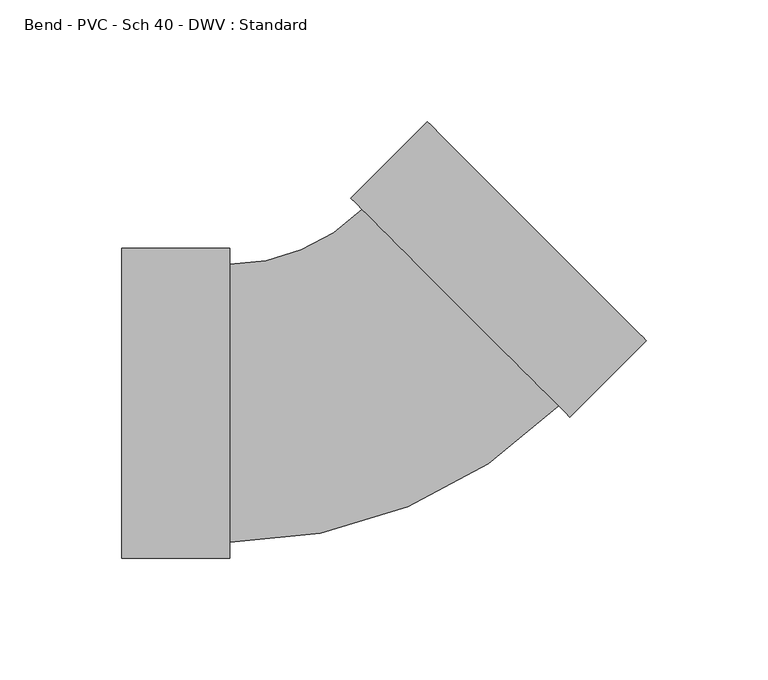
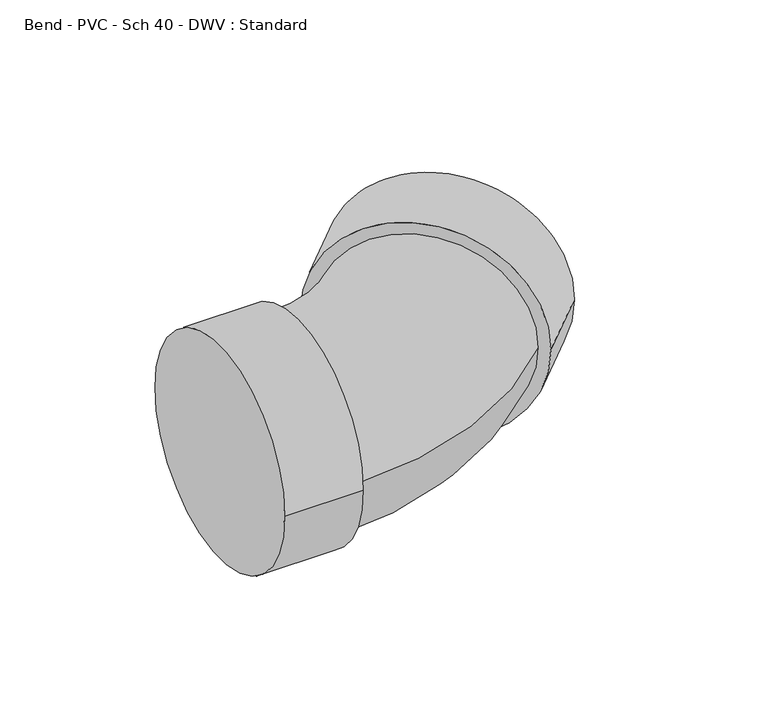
"""IFC4 building model written with IfcOpenShell, lengths in millimetres: pipe fitting geometry, Bend - PVC - Sch 40 - DWV : Standard."""

from ifc_helpers import new_model, si_unit, point, frame, origin, place, context, project, spatial, circle_curve, ellipse_curve, trimmed, source, transform, mapped, element, save
from ifc_brep_helpers import plane_surface, cylinder_surface, revolved_surface, advanced_brep


def bend_pvc_sch_40_dwv_standard_b61a2a1c(model_context):
    return source(origin(), model_context, "Body", "AdvancedBrep", [
        advanced_brep(
        [(-100.0252, -63.754, 0.0), (-100.0252, 63.754, 0.0), (-55.5752, -63.754, 0.0), (-55.5752, 63.754, 0.0), (-55.5752, -57.15, 0.0), (-55.5752, 57.15, 0.0), (-1.1095412, 79.7088093, 0.0), (79.7086972, -1.1175623, 0.0), (84.3781954, -5.7875305, 0.0), (-5.7790394, 84.3787774, 0.0), (115.8106733, 25.6417845, 0.0), (25.6534384, 115.8080923, 0.0)],
        [
            (0, 1, circle_curve(frame((-100.0252, 0.0, 0.0), z_axis=(-1.0, 0.0, 0.0), x_axis=(0.0, 1.0, 0.0)), 63.754)),
            (1, 0, circle_curve(frame((-100.0252, 0.0, 0.0), z_axis=(-1.0, 0.0, 0.0), x_axis=(0.0, 1.0, 0.0)), 63.754)),
            (2, 3, circle_curve(frame((-55.5752, 0.0, 0.0), z_axis=(1.0, 0.0, 0.0), x_axis=(0.0, 1.0, 0.0)), 63.754)),
            (3, 2, circle_curve(frame((-55.5752, 0.0, 0.0), z_axis=(1.0, 0.0, 0.0), x_axis=(0.0, 1.0, 0.0)), 63.754)),
            (4, 5, circle_curve(frame((-55.5752, 0.0, 0.0), z_axis=(-1.0, 0.0, 0.0), x_axis=(0.0, 1.0, 0.0)), 57.15)),
            (5, 4, circle_curve(frame((-55.5752, 0.0, 0.0), z_axis=(-1.0, 0.0, 0.0), x_axis=(0.0, 1.0, 0.0)), 57.15)),
            (0, 2),
            (3, 1),
            (6, 5, circle_curve(frame((-55.5752, 134.1799493, 0.0), z_axis=(0.0, 0.0, -1.0), x_axis=(0.0, -1.0, 0.0)), 77.0299493)),
            (4, 7, circle_curve(frame((-55.5752, 134.1799493, 0.0), z_axis=(0.0, 0.0, 1.0), x_axis=(0.0, -1.0, 0.0)), 191.3299493)),
            (7, 6, circle_curve(frame((39.299578, 39.2956235, 0.0), z_axis=(-0.7071423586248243, -0.707071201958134, 0.0), x_axis=(-0.707071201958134, 0.7071423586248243, 0.0)), 57.15)),
            (6, 7, circle_curve(frame((39.299578, 39.2956235, 0.0), z_axis=(-0.7071423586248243, -0.707071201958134, 0.0), x_axis=(-0.707071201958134, 0.7071423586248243, 0.0)), 57.15)),
            (8, 9, circle_curve(frame((39.299578, 39.2956235, 0.0), z_axis=(-0.7071423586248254, -0.7070712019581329, 0.0), x_axis=(-0.7070712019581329, 0.7071423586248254, 0.0)), 63.754)),
            (9, 8, circle_curve(frame((39.299578, 39.2956235, 0.0), z_axis=(-0.7071423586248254, -0.7070712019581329, 0.0), x_axis=(-0.7070712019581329, 0.7071423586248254, 0.0)), 63.754)),
            (10, 11, circle_curve(frame((70.7320558, 70.7249384, 0.0), z_axis=(0.7071423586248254, 0.7070712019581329, 0.0), x_axis=(-0.7070712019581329, 0.7071423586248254, 0.0)), 63.754)),
            (11, 10, circle_curve(frame((70.7320558, 70.7249384, 0.0), z_axis=(0.7071423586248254, 0.7070712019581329, 0.0), x_axis=(-0.7070712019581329, 0.7071423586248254, 0.0)), 63.754)),
            (8, 10),
            (11, 9),
        ],
        [
            plane_surface(frame((-100.0252, 0.0, 0.0), z_axis=(-1.0, 0.0, 0.0), x_axis=(0.0, 0.0, 1.0))),
            plane_surface(frame((-55.5752, 0.0, 0.0), z_axis=(1.0, 0.0, 0.0), x_axis=(0.0, 0.0, 1.0))),
            cylinder_surface(frame((-100.0252, 0.0, 0.0), z_axis=(-1.0, 0.0, 0.0), x_axis=(0.0, 1.0, 0.0)), 63.754),
            revolved_surface(trimmed(ellipse_curve(frame((-55.5752, 0.0, 0.0), z_axis=(-1.0, 0.0, 0.0), x_axis=(0.0, 1.0, 0.0)), 57.15, 57.15), [point((-55.5752, -57.15, 0.0))], [point((-55.5752, 57.15, 0.0))], True, "CARTESIAN"), (-55.5752, 134.1799493, 0.0), (0.0, 0.0, 1.0)),
            revolved_surface(trimmed(ellipse_curve(frame((-55.5752, 0.0, 0.0), z_axis=(-1.0, 0.0, 0.0), x_axis=(0.0, 1.0, 0.0)), 57.15, 57.15), [point((-55.5752, 57.15, 0.0))], [point((-55.5752, -57.15, 0.0))], True, "CARTESIAN"), (-55.5752, 134.1799493, 0.0), (0.0, 0.0, 1.0)),
            plane_surface(frame((39.299578, 39.2956235, 0.0), z_axis=(-0.7071423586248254, -0.7070712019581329, 0.0), x_axis=(0.0, 0.0, 1.0))),
            plane_surface(frame((70.7320558, 70.7249384, 0.0), z_axis=(0.7071423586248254, 0.7070712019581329, 0.0), x_axis=(0.0, 0.0, 1.0))),
            cylinder_surface(frame((39.299578, 39.2956235, 0.0), z_axis=(-0.7071423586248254, -0.7070712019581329, 0.0), x_axis=(-0.7070712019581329, 0.7071423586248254, 0.0)), 63.754),
        ],
        [
            (0, [[1, 2]]),
            (1, [[3, 4], [5, 6]]),
            (2, [[-1, 7, -4, 8]]),
            (2, [[-2, -8, -3, -7]]),
            (3, [[9, -5, 10, 11]]),
            (4, [[-9, 12, -10, -6]]),
            (5, [[13, 14], [-11, -12]]),
            (6, [[15, 16]]),
            (7, [[-13, 17, -16, 18]]),
            (7, [[-14, -18, -15, -17]]),
        ],
    ),
    ])


if __name__ == "__main__":
    model = new_model("IFC4")
    model_context = context("Model", 3, world=origin())
    ifc_project = project(units=[si_unit("LENGTHUNIT", "METRE", prefix="MILLI")], contexts=[model_context])
    site = spatial("IfcSite", under=ifc_project)
    building = spatial("IfcBuilding", under=site)
    placement = place(None, origin())
    bend_pvc_sch_40_dwv_standard_shape = bend_pvc_sch_40_dwv_standard_b61a2a1c(model_context)
    element("IfcPipeFitting", 1, ObjectType="Bend - PVC - Sch 40 - DWV : Standard", at=placement, inside=building, context=model_context, shape_type="MappedRepresentation", body=[
        mapped(bend_pvc_sch_40_dwv_standard_shape, transform((0.0, 0.0, 0.0), x_axis=(1.0, 0.0, 0.0), y_axis=(0.0, 1.0, 0.0), z_axis=(0.0, 0.0, 1.0))),
    ])
    save(model, "model.ifc")
